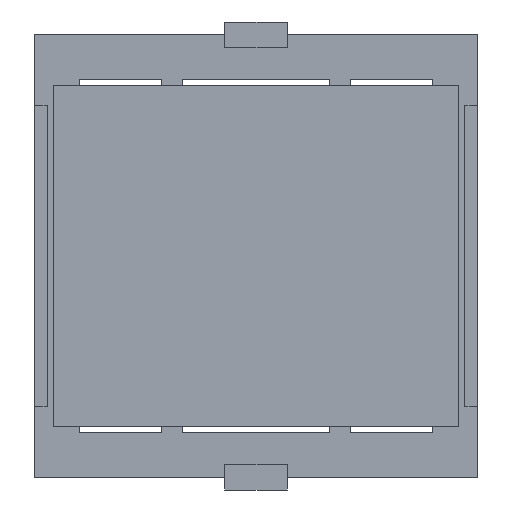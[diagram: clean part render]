
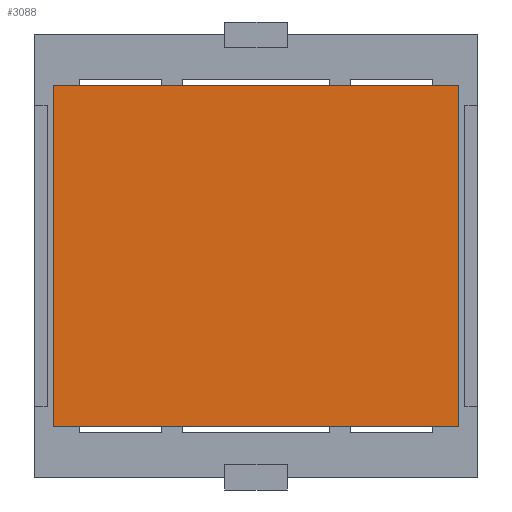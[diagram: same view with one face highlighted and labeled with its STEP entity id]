
A CAD part, front view. The second image highlights one B-rep face of the part: STEP entity #3088.
In plain terms, the highlighted planar face has unit normal (0, -1, 0).
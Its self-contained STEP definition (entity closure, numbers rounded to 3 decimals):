
#238 = ORIENTED_EDGE ( 'NONE', *, *, #3041, .F. ) ;
#259 = VERTEX_POINT ( 'NONE', #5533 ) ;
#322 = LINE ( 'NONE', #2227, #3689 ) ;
#327 = EDGE_CURVE ( 'NONE', #259, #2952, #3832, .T. ) ;
#545 = PLANE ( 'NONE',  #5142 ) ;
#907 = EDGE_CURVE ( 'NONE', #2952, #3940, #2114, .T. ) ;
#1009 = FACE_OUTER_BOUND ( 'NONE', #2702, .T. ) ;
#1651 = LINE ( 'NONE', #5337, #5733 ) ;
#2114 = LINE ( 'NONE', #3507, #2864 ) ;
#2171 = DIRECTION ( 'NONE',  ( 1., 0., 0. ) ) ;
#2227 = CARTESIAN_POINT ( 'NONE',  ( 16.129, -0.127, -13.589 ) ) ;
#2329 = VECTOR ( 'NONE', #5269, 1000. ) ;
#2500 = EDGE_CURVE ( 'NONE', #3940, #3380, #322, .T. ) ;
#2610 = CARTESIAN_POINT ( 'NONE',  ( 16.129, -0.127, 13.589 ) ) ;
#2702 = EDGE_LOOP ( 'NONE', ( #2808, #238, #5016, #4978 ) ) ;
#2808 = ORIENTED_EDGE ( 'NONE', *, *, #327, .F. ) ;
#2864 = VECTOR ( 'NONE', #2171, 1000. ) ;
#2952 = VERTEX_POINT ( 'NONE', #3426 ) ;
#3041 = EDGE_CURVE ( 'NONE', #3380, #259, #1651, .T. ) ;
#3088 = ADVANCED_FACE ( 'NONE', ( #1009 ), #545, .F. ) ;
#3380 = VERTEX_POINT ( 'NONE', #4411 ) ;
#3426 = CARTESIAN_POINT ( 'NONE',  ( -16.129, -0.127, 13.589 ) ) ;
#3507 = CARTESIAN_POINT ( 'NONE',  ( -16.129, -0.127, 13.589 ) ) ;
#3689 = VECTOR ( 'NONE', #3969, 1000. ) ;
#3832 = LINE ( 'NONE', #4770, #2329 ) ;
#3940 = VERTEX_POINT ( 'NONE', #2610 ) ;
#3969 = DIRECTION ( 'NONE',  ( 0., 0., -1. ) ) ;
#4163 = DIRECTION ( 'NONE',  ( 0., 0., 1. ) ) ;
#4411 = CARTESIAN_POINT ( 'NONE',  ( 16.129, -0.127, -13.589 ) ) ;
#4770 = CARTESIAN_POINT ( 'NONE',  ( -16.129, -0.127, -13.589 ) ) ;
#4978 = ORIENTED_EDGE ( 'NONE', *, *, #907, .F. ) ;
#5016 = ORIENTED_EDGE ( 'NONE', *, *, #2500, .F. ) ;
#5046 = DIRECTION ( 'NONE',  ( -1., 0., 0. ) ) ;
#5073 = CARTESIAN_POINT ( 'NONE',  ( -16.129, -0.127, 13.589 ) ) ;
#5142 = AXIS2_PLACEMENT_3D ( 'NONE', #5073, #5198, #4163 ) ;
#5198 = DIRECTION ( 'NONE',  ( 0., 1., 0. ) ) ;
#5269 = DIRECTION ( 'NONE',  ( 0., 0., 1. ) ) ;
#5337 = CARTESIAN_POINT ( 'NONE',  ( -16.129, -0.127, -13.589 ) ) ;
#5533 = CARTESIAN_POINT ( 'NONE',  ( -16.129, -0.127, -13.589 ) ) ;
#5733 = VECTOR ( 'NONE', #5046, 1000. ) ;
